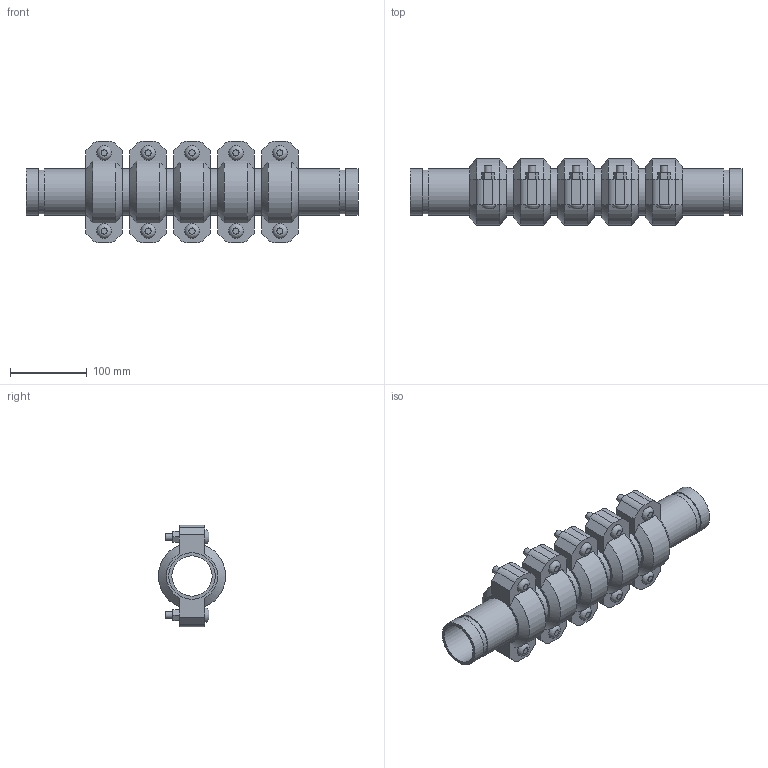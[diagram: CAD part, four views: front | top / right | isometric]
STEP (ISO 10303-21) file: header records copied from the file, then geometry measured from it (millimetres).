
FILE_DESCRIPTION(/* description */ ('VIC EXPANSION JOINT 5 COUPLINGS COMPRESSED STYLE 155 (OGS)','CAx-IF Rec.Pracs.---Representation and Presentation of Product Manufacturing Information (PMI)---4.0---2014-10-13'),/* implementation_level */ '2;1');
FILE_NAME(/* name */ 'C:\Users\kkamble\AppData\Roaming\Autodesk\ApplicationPlugins\Victaulic.Temp\A136\Victaulic_IPS_Expansion Joint_Compressed_5 Couplings_Style 155 (OGS)_2 (50).stp',/* time_stamp */ '2021-06-27T00:29:22+02:00',/* author */ ('kkamble'),/* organization */ ('Victaulic'),/* preprocessor_version */ 'ST-DEVELOPER v17.2',/* originating_system */ 'Autodesk Inventor 2019',/* authorisation */ '');
FILE_SCHEMA (('AP242_MANAGED_MODEL_BASED_3D_ENGINEERING_MIM_LF { 1 0 10303 442 1 1 4 }'));
Length unit declared in the file: inch
Products named in the file (4): 155-02.0; Nipple-02.0; Nipple-02.0_1; 075-02.0
Assembly tree (11 placements, depth 2):
  155-02.0
    Nipple-02.0  x2
    Nipple-02.0_1  x4
    075-02.0  x5
Bounding box: 431.8 x 87.12 x 132.59 mm (x, y, z)
Volume: 1271337 mm3; surface area: 361068.7 mm2
Topology: 11 solids, 21 shells, 337 faces, 815 edges, 574 vertices
Faces by surface type: plane 206, cylinder 101, cone 20, bspline 10
Full cylindrical faces by diameter (mm): 9.525 x20, 11.43 x10, 52.502 x6, 57.15 x12, 60.325 x23
Entity records: 2707 total; most frequent: CARTESIAN_POINT 481, DIRECTION 447, ORIENTED_EDGE 374, EDGE_CURVE 187, AXIS2_PLACEMENT_3D 178, VERTEX_POINT 134, EDGE_LOOP 101, LINE 91
